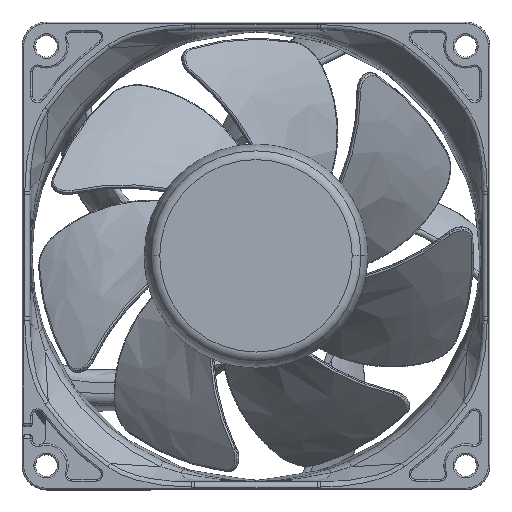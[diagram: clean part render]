
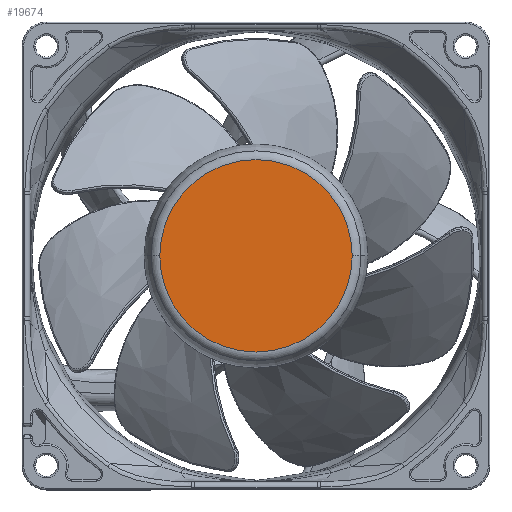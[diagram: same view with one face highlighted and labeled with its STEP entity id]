
A CAD part, top view. The second image highlights one B-rep face of the part: STEP entity #19674.
In plain terms, the highlighted planar face has unit normal (0, 0, 1).
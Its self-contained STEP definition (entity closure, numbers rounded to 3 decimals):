
#353 = CARTESIAN_POINT ( 'NONE',  ( 18.928, 0., 37. ) ) ;
#1721 = EDGE_LOOP ( 'NONE', ( #28851, #15700 ) ) ;
#2269 = DIRECTION ( 'NONE',  ( 0., 0., -1. ) ) ;
#2276 = EDGE_CURVE ( 'NONE', #25064, #9232, #16580, .T. ) ;
#2690 = DIRECTION ( 'NONE',  ( 0., 0., -1. ) ) ;
#3153 = CARTESIAN_POINT ( 'NONE',  ( 0., 0., 37. ) ) ;
#5487 = DIRECTION ( 'NONE',  ( -1., 0., 0. ) ) ;
#6021 = EDGE_CURVE ( 'NONE', #9232, #25064, #24781, .T. ) ;
#7454 = AXIS2_PLACEMENT_3D ( 'NONE', #353, #2690, #19137 ) ;
#9232 = VERTEX_POINT ( 'NONE', #19713 ) ;
#10376 = CARTESIAN_POINT ( 'NONE',  ( 18.928, 0., 37. ) ) ;
#13707 = AXIS2_PLACEMENT_3D ( 'NONE', #16347, #2269, #18723 ) ;
#15700 = ORIENTED_EDGE ( 'NONE', *, *, #2276, .F. ) ;
#16347 = CARTESIAN_POINT ( 'NONE',  ( 0., 0., 37. ) ) ;
#16580 = CIRCLE ( 'NONE', #13707, 18.928 ) ;
#18723 = DIRECTION ( 'NONE',  ( -1., 0., 0. ) ) ;
#19137 = DIRECTION ( 'NONE',  ( -1., 0., 0. ) ) ;
#19597 = DIRECTION ( 'NONE',  ( 0., 0., -1. ) ) ;
#19674 = ADVANCED_FACE ( 'NONE', ( #21890 ), #28346, .F. ) ;
#19713 = CARTESIAN_POINT ( 'NONE',  ( -18.928, 0., 37. ) ) ;
#21890 = FACE_OUTER_BOUND ( 'NONE', #1721, .T. ) ;
#22493 = AXIS2_PLACEMENT_3D ( 'NONE', #3153, #19597, #5487 ) ;
#24781 = CIRCLE ( 'NONE', #22493, 18.928 ) ;
#25064 = VERTEX_POINT ( 'NONE', #10376 ) ;
#28346 = PLANE ( 'NONE',  #7454 ) ;
#28851 = ORIENTED_EDGE ( 'NONE', *, *, #6021, .F. ) ;
